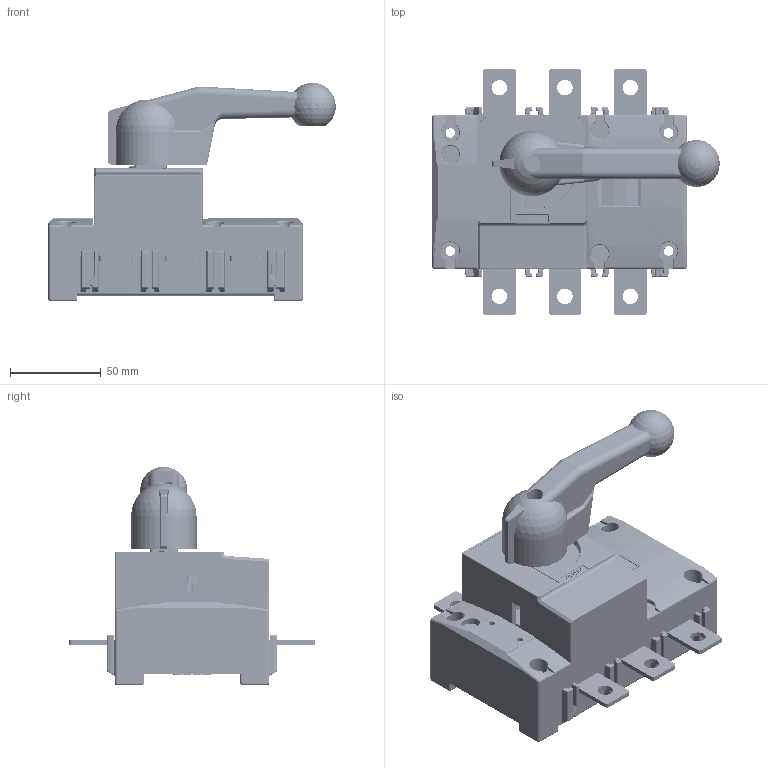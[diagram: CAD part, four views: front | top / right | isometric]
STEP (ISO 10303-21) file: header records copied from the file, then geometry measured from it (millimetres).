
FILE_DESCRIPTION((''),'2;1');
FILE_NAME('NH40-125-3_3P_202503019_ASM','2025-03-21T',('zhuanghy'),(''),'CREO PARAMETRIC BY PTC INC, 2018070','CREO PARAMETRIC BY PTC INC, 2018070','');
FILE_SCHEMA(('AUTOMOTIVE_DESIGN { 1 0 10303 214 1 1 1 1 }'));
Products named in the file (41): PRODUCT_76891_1_1_2; __________GBT845__8XST4X14_F__5; _______GBT818__8XM4X18_1_2_1__2; _____GBT6170_M4_1_2_1_1_2; ____GBT97_1__9_M4_0_8_1_2_1_1_2; _____GBT93_4_1_2_1_1_2; NH40_125_3_1_ASM_1_1_2_ASM; PRODUCT_23959_1_1_2; _______GBT818__8XM4X18_1_1_1__2; PRODUCT_10975_1_1_1_1_2; __________GBT845__8XST4X14_F__6; _____GBT6170_M4_1_1_1_1_2; __________GBT845__8XST4X22_F__3; _____GBT93_4_1_1_1_1_2; PRODUCT_60553_1_1_1_1_2; ____GBT97_1__9_M4_0_8_1_1_1_1_2; PRODUCT_33104_1_1_1_1_2; ________630_1_1_1_1_2; PRODUCT_92551_1_1_1_1_2; PRODUCT_13231_1_1_1_1_2; NH40_160_3_1_ASM_1_1_ASM_1_1_2_ASM; ASM0003_ASM_5_ASM_ASM_1_ASM___4; ASM0001_ASM_1_ASM_1_ASM_1_1_2_2_ASM; NH40-160-3_ASM_ASM_1_ASM_1_AS_3_ASM; NH40-125-3_2021_05__ASM_1_ASM_2_ASM; NH40-100-160_ASM_4_ASM_1_1_AS_2; ASM0001_ASM_1_1_ASM_1_ASM_1_1_3_ASM; ASM0003_ASM_5_ASM_ASM_1_ASM___5; ASM0001_ASM_1_ASM_1_1_ASM_1_A_2_ASM; NH40-160-3_ASM_ASM_1_ASM_1_1__2_ASM; NH40-125-3_2021_05__ASM_1_1_A_2_ASM; ASM0002_ASM_1_ASM_1_ASM_1_1_2_2_ASM; NH40-125-3_3P_202105_ASM_1_1__2_ASM; NH40-125-3W_3P_202404_ASM_1_A_2_ASM; NH40-125-3W_3P_202503_ASM_1_1_3_ASM; ASM0002_ASM_1_1_ASM_1_1_2_ASM; NH40_160_3_ASM_1_1_ASM_1_1_2_ASM; NH40_160_3W-SG_ASM_ASM_1_1_2_ASM; PRT0003_1_1; NH40_125_3_ASM_1_1_2_ASM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
Assembly tree (84 placements, depth 13):
  NH40-125-3_3P_202503019_ASM
    NH40_125_3_ASM_1_1_2_ASM
      NH40_125_3_1_ASM_1_1_2_ASM
        PRODUCT_76891_1_1_2  x6
        __________GBT845__8XST4X14_F__5  x12
        _______GBT818__8XM4X18_1_2_1__2  x3
        _____GBT6170_M4_1_2_1_1_2  x3
        ____GBT97_1__9_M4_0_8_1_2_1_1_2  x3
        _____GBT93_4_1_2_1_1_2  x3
      PRODUCT_23959_1_1_2
      NH40_160_3W-SG_ASM_ASM_1_1_2_ASM
        NH40_160_3_ASM_1_1_ASM_1_1_2_ASM
          NH40_160_3_1_ASM_1_1_ASM_1_1_2_ASM
            _______GBT818__8XM4X18_1_1_1__2  x3
            PRODUCT_10975_1_1_1_1_2
            __________GBT845__8XST4X14_F__6  x12
            _____GBT6170_M4_1_1_1_1_2  x3
            __________GBT845__8XST4X22_F__3  x2
            _____GBT93_4_1_1_1_1_2  x3
            PRODUCT_60553_1_1_1_1_2
            ____GBT97_1__9_M4_0_8_1_1_1_1_2  x3
            PRODUCT_33104_1_1_1_1_2
            ________630_1_1_1_1_2
            PRODUCT_92551_1_1_1_1_2
            PRODUCT_13231_1_1_1_1_2
          ASM0002_ASM_1_1_ASM_1_1_2_ASM
            NH40-125-3W_3P_202503_ASM_1_1_3_ASM
              NH40-125-3W_3P_202404_ASM_1_A_2_ASM
                NH40-125-3_3P_202105_ASM_1_1__2_ASM
                  NH40-125-3_2021_05__ASM_1_ASM_2_ASM
                  ASM0001_ASM_1_1_ASM_1_ASM_1_1_3_ASM
                  ASM0002_ASM_1_ASM_1_ASM_1_1_2_2_ASM
      PRT0003_1_1
Bounding box: 158.23 x 135.4 x 120.1 mm (x, y, z)
Volume: 641140.6 mm3; surface area: 158547.8 mm2
Topology: 64 solids, 66 shells, 4997 faces, 12768 edges, 7901 vertices
Faces by surface type: cylinder 1670, plane 1554, bspline 946, cone 406, torus 208, sphere 173, extrusion 40
Entity records: 146691 total; most frequent: CARTESIAN_POINT 79293, ORIENTED_EDGE 11894, DIRECTION 10945, EDGE_CURVE 5947, AXIS2_PLACEMENT_3D 3999, VERTEX_POINT 3728, PRESENTATION_STYLE_ASSIGNMENT 3052, STYLED_ITEM 3052
